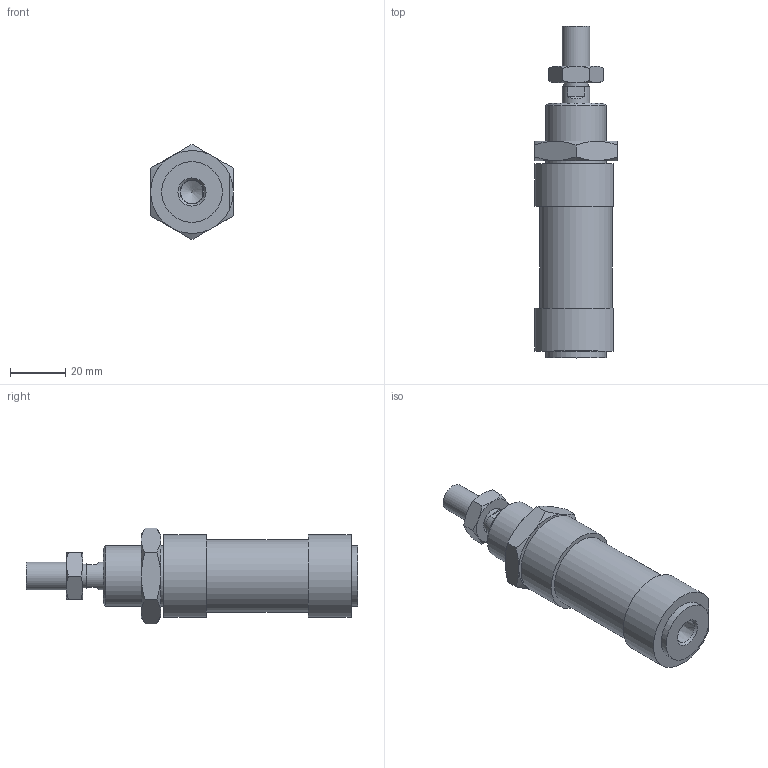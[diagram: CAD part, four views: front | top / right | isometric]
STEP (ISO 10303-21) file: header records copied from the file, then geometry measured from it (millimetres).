
FILE_DESCRIPTION((''),'2;1');
FILE_NAME('I:\Area Tecnica\Disegni\VARIE-3D\Componenti\1280\1281_##_####_#\1281_25_0000.iam.stp','2009-06-04T09:40:03',(''),(''),'Autodesk Inventor 2010','Autodesk Inventor 2010','');
FILE_SCHEMA(('AUTOMOTIVE_DESIGN { 1 0 10303 214 1 1 1 1 }'));
Length unit declared in the file: millimetre
Products named in the file (5): 1281_25_0000; C1281_25_0; S1280_25_0; 1200_25_05; 1200_25_06
Assembly tree (4 placements, depth 2):
  1281_25_0000
    C1281_25_0
    S1280_25_0
    1200_25_05
    1200_25_06
Bounding box: 30 x 120.5 x 34.64 mm (x, y, z)
Volume: 55736.7 mm3; surface area: 16149.4 mm2
Topology: 4 solids, 4 shells, 86 faces, 185 edges, 112 vertices
Faces by surface type: plane 36, cone 26, bspline 15, cylinder 9
Full cylindrical faces by diameter (mm): 8.8 x1, 10 x3, 22 x2, 26.5 x1
Entity records: 2529 total; most frequent: CARTESIAN_POINT 690, DIRECTION 332, ORIENTED_EDGE 310, EDGE_CURVE 155, AXIS2_PLACEMENT_3D 148, EDGE_LOOP 120, VERTEX_POINT 103, STYLED_ITEM 90
